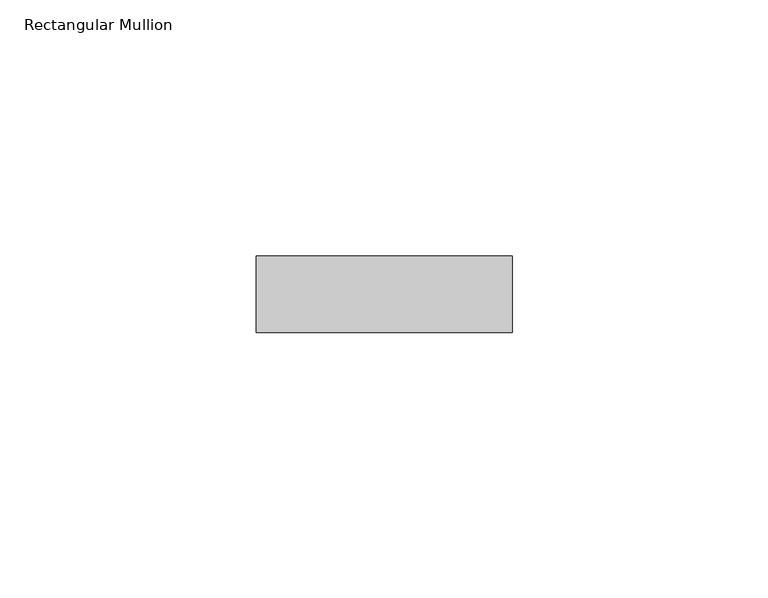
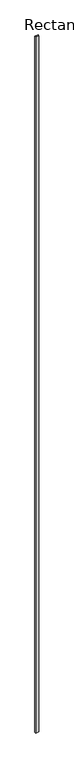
"""IFC4 building model written with IfcOpenShell, lengths in millimetres: member geometry, Rectangular Mullion : Ripa."""

from ifc_helpers import new_model, si_unit, frame, origin, place, context, project, spatial, polyline, outline, extrude, source, transform, mapped, element, save


def rectangular_mullion_bc301d54(model_context):
    return source(origin(), model_context, "Body", "SweptSolid", [
        extrude(outline(polyline([(-50.0, -75.0), (-50.0, -60.0), (0.0, -60.0), (0.0, -75.0), (-50.0, -75.0)])), frame((0.0, 0.0, -10700.006484), z_axis=(0.0, 0.0, 1.0), x_axis=(1.0, 0.0, 0.0)), (0.0, 0.0, 1.0), 10700.006484),
    ])


if __name__ == "__main__":
    model = new_model("IFC4")
    model_context = context("Model", 3, world=origin())
    ifc_project = project(units=[si_unit("LENGTHUNIT", "METRE", prefix="MILLI")], contexts=[model_context])
    site = spatial("IfcSite", under=ifc_project)
    building = spatial("IfcBuilding", under=site)
    placement = place(None, origin())
    rectangular_mullion_shape = rectangular_mullion_bc301d54(model_context)
    element("IfcMember", 1, ObjectType="Rectangular Mullion : Ripa", at=placement, inside=building, context=model_context, shape_type="MappedRepresentation", body=[
        mapped(rectangular_mullion_shape, transform((0.0, 0.0, 0.0), x_axis=(1.0, 0.0, 0.0), y_axis=(0.0, 1.0, 0.0), z_axis=(0.0, 0.0, 1.0))),
    ])
    save(model, "model.ifc")
